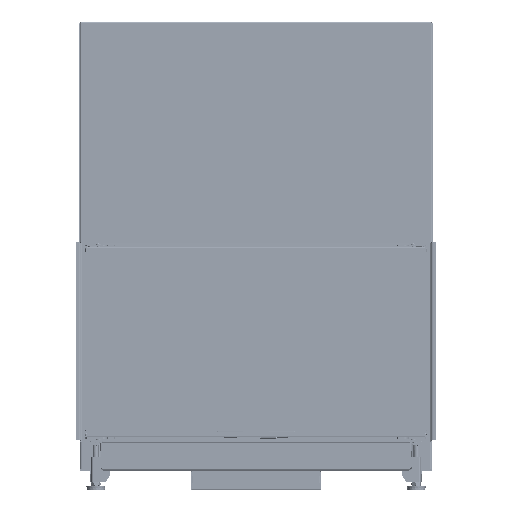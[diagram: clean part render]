
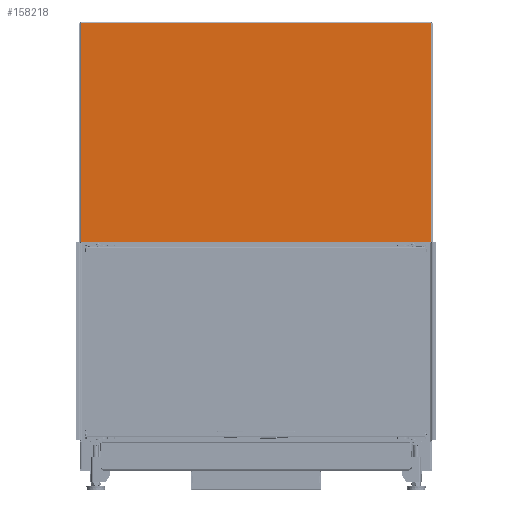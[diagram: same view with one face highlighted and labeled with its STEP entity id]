
A CAD part, front view. The second image highlights one B-rep face of the part: STEP entity #158218.
In plain terms, the highlighted planar face has unit normal (0, -1, 0).
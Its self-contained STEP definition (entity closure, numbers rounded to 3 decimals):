
#7129=FACE_OUTER_BOUND('',#15806,.T.);
#15806=EDGE_LOOP('',(#107290,#107291,#107292,#107293,#107294,#107295));
#32141=LINE('',#237685,#48015);
#32146=LINE('',#237773,#48020);
#32154=LINE('',#237992,#48028);
#32155=LINE('',#237994,#48029);
#32156=LINE('',#237998,#48030);
#32159=LINE('',#238004,#48033);
#48015=VECTOR('',#187911,10.);
#48020=VECTOR('',#187928,10.);
#48028=VECTOR('',#187950,10.);
#48029=VECTOR('',#187953,10.);
#48030=VECTOR('',#187960,10.);
#48033=VECTOR('',#187969,10.);
#63975=VERTEX_POINT('',#237666);
#63976=VERTEX_POINT('',#237677);
#63982=VERTEX_POINT('',#237766);
#63984=VERTEX_POINT('',#237772);
#63993=VERTEX_POINT('',#237983);
#63994=VERTEX_POINT('',#237990);
#80226=EDGE_CURVE('',#63976,#63975,#32141,.T.);
#80238=EDGE_CURVE('',#63984,#63975,#32146,.T.);
#80262=EDGE_CURVE('',#63993,#63994,#32154,.T.);
#80263=EDGE_CURVE('',#63982,#63984,#32155,.T.);
#80265=EDGE_CURVE('',#63994,#63982,#32156,.T.);
#80269=EDGE_CURVE('',#63976,#63993,#32159,.T.);
#107290=ORIENTED_EDGE('',*,*,#80263,.T.);
#107291=ORIENTED_EDGE('',*,*,#80238,.T.);
#107292=ORIENTED_EDGE('',*,*,#80226,.F.);
#107293=ORIENTED_EDGE('',*,*,#80269,.T.);
#107294=ORIENTED_EDGE('',*,*,#80262,.T.);
#107295=ORIENTED_EDGE('',*,*,#80265,.T.);
#148682=PLANE('',#168050);
#158218=ADVANCED_FACE('',(#7129),#148682,.T.);
#168050=AXIS2_PLACEMENT_3D('',#238003,#187967,#187968);
#187911=DIRECTION('',(1.,0.,0.));
#187928=DIRECTION('',(0.,0.,1.));
#187950=DIRECTION('',(0.,0.,-1.));
#187953=DIRECTION('',(0.,0.,1.));
#187960=DIRECTION('',(1.,0.,0.));
#187967=DIRECTION('center_axis',(0.,-1.,0.));
#187968=DIRECTION('ref_axis',(1.,0.,0.));
#187969=DIRECTION('',(0.,0.,-1.));
#237666=CARTESIAN_POINT('',(485.75,-328.496,1242.25));
#237677=CARTESIAN_POINT('',(-485.75,-328.496,1242.25));
#237685=CARTESIAN_POINT('',(0.,-328.496,1242.25));
#237766=CARTESIAN_POINT('',(485.75,-328.496,635.25));
#237772=CARTESIAN_POINT('',(485.75,-328.496,1241.57));
#237773=CARTESIAN_POINT('',(485.75,-328.496,808.846));
#237983=CARTESIAN_POINT('',(-485.75,-328.496,1241.57));
#237990=CARTESIAN_POINT('',(-485.75,-328.496,635.25));
#237992=CARTESIAN_POINT('',(-485.75,-328.496,1112.346));
#237994=CARTESIAN_POINT('',(485.75,-328.496,808.846));
#237998=CARTESIAN_POINT('',(244.25,-328.496,635.25));
#238003=CARTESIAN_POINT('Origin',(0.,-328.496,
982.441));
#238004=CARTESIAN_POINT('',(-485.75,-328.496,1112.346));
